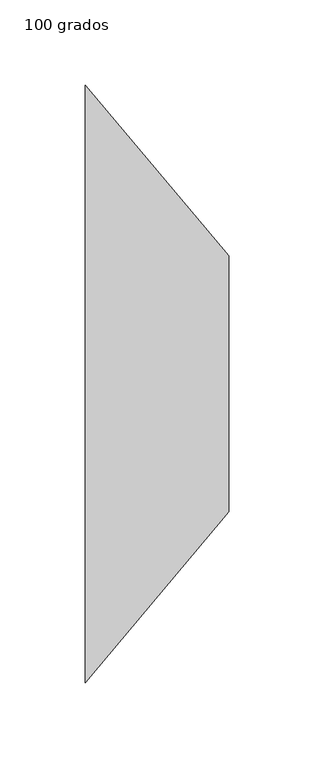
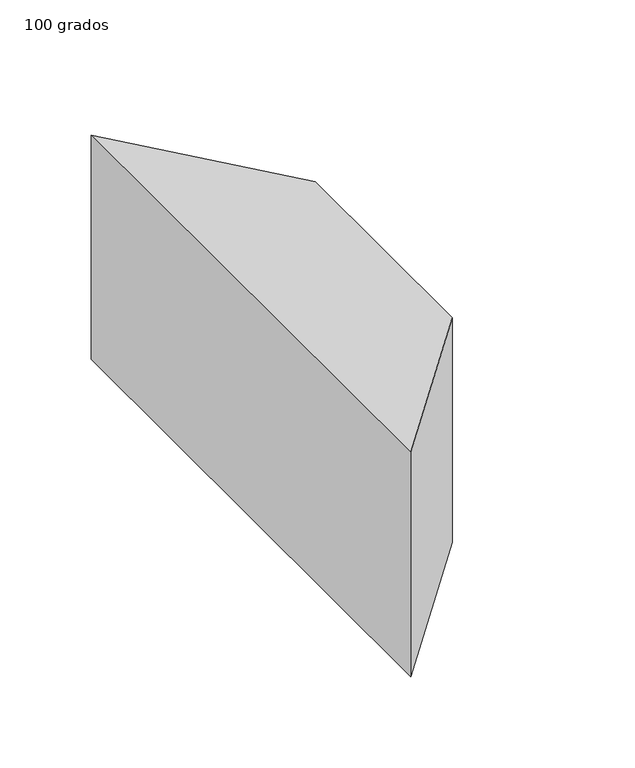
"""IFC4 building model written with IfcOpenShell, lengths in millimetres: duct fitting geometry, M_Transición rectangular - Ángulo : 100 grados."""

import ifcopenshell
import ifcopenshell.guid

model = None  # the IFC model being written
_history = None  # IfcOwnerHistory: only IFC2X3 demands one
_inside = {}  # id of a spatial element -> (the spatial element, [elements in it])
_under = {}  # id of a project, library or spatial element -> (it, [spatial elements below it])
_declared = {}  # id of a project -> (the project, [libraries it declares])
_typed = {}  # id of a type object -> (the type object, [elements of that type])
_made_of = {}  # id of a material, layer set ... -> (it, [elements and type objects made of it])


def new_model(schema):
    """Start an empty IFC model of exactly this schema.

    Asked for "IFC4X3", IfcOpenShell would pick the latest addendum, in which some entities
    have other attributes; the version numbers below select the first issue.
    IFC2X3 requires an IfcOwnerHistory on every rooted entity: one is made here for all.
    """
    global model, _history
    if schema == "IFC4X3":
        model = ifcopenshell.file(schema_version=(4, 3, 0, 0))
    else:
        model = ifcopenshell.file(schema=schema)
    _inside.clear()
    _under.clear()
    _declared.clear()
    _typed.clear()
    _made_of.clear()
    _history = None
    if model.schema == "IFC2X3":
        org = make("IfcOrganization", Name="unknown")
        user = make(
            "IfcPersonAndOrganization",
            ThePerson=make("IfcPerson", FamilyName="unknown"),
            TheOrganization=org,
        )
        app = make(
            "IfcApplication",
            ApplicationDeveloper=org,
            Version="unknown",
            ApplicationFullName="unknown",
            ApplicationIdentifier="unknown",
        )
        _history = make(
            "IfcOwnerHistory",
            OwningUser=user,
            OwningApplication=app,
            ChangeAction="ADDED",
            CreationDate=0,
        )
    return model


def make(cls, **values):
    """One entity of the class cls with the attributes given. An attribute that is None is left unset."""
    return model.create_entity(
        cls, **{name: value for name, value in values.items() if value is not None}
    )


def rooted(cls, **values):
    """An entity with a GlobalId (a new one), such as an element, a storey or a relation."""
    return make(cls, GlobalId=ifcopenshell.guid.new(), OwnerHistory=_history, **values)


def si_unit(unit_type, name, prefix=None):
    """IfcSIUnit, for example si_unit("LENGTHUNIT", "METRE", prefix="MILLI")."""
    return make("IfcSIUnit", UnitType=unit_type, Prefix=prefix, Name=name)


def assignment(units):
    """IfcUnitAssignment: the units of a project."""
    return None if units is None else make("IfcUnitAssignment", Units=units)


def point(xyz):
    """IfcCartesianPoint."""
    return None if xyz is None else make("IfcCartesianPoint", Coordinates=xyz)


def direction(xyz):
    """IfcDirection."""
    return None if xyz is None else make("IfcDirection", DirectionRatios=xyz)


def frame(location, z_axis=None, x_axis=None):
    """IfcAxis2Placement3D, a coordinate frame: its origin and axes. An axis left out is left unset."""
    return make(
        "IfcAxis2Placement3D",
        Location=point(location),
        Axis=direction(z_axis),
        RefDirection=direction(x_axis),
    )


def origin():
    """The frame at (0, 0, 0) with its axes left unset."""
    return frame((0.0, 0.0, 0.0))


def place(relative_to, where):
    """IfcLocalPlacement: puts the frame where relative to a parent placement (None: the world)."""
    return make(
        "IfcLocalPlacement", PlacementRelTo=relative_to, RelativePlacement=where
    )


def context(
    kind, dimensions, precision=None, world=None, true_north=None, identifier=None
):
    """IfcGeometricRepresentationContext, for example the 3D "Model" context."""
    return make(
        "IfcGeometricRepresentationContext",
        ContextIdentifier=identifier,
        ContextType=kind,
        CoordinateSpaceDimension=dimensions,
        Precision=precision,
        WorldCoordinateSystem=world,
        TrueNorth=true_north,
    )


def project(units=None, contexts=None):
    """IfcProject with its units and contexts."""
    return rooted(
        "IfcProject",
        Name="project",
        RepresentationContexts=contexts,
        UnitsInContext=assignment(units),
    )


def spatial(cls, under=None, at=None, **own):
    """A site, building, storey or space (cls), placed at a placement, below another one or the project."""
    s = rooted(cls, ObjectPlacement=at, **own)
    if under is not None:
        _under.setdefault(under.id(), (under, []))[1].append(s)
    return s


def polyline(points):
    """IfcPolyline through the points."""
    return make("IfcPolyline", Points=[point(p) for p in points])


def outline(outer, holes=None, kind="AREA"):
    """IfcArbitraryClosedProfileDef: a profile drawn as a closed curve; with holes, ...WithVoids."""
    if holes is None:
        return make("IfcArbitraryClosedProfileDef", ProfileType=kind, OuterCurve=outer)
    return make(
        "IfcArbitraryProfileDefWithVoids",
        ProfileType=kind,
        OuterCurve=outer,
        InnerCurves=holes,
    )


def extrude(swept, where, along, depth):
    """IfcExtrudedAreaSolid: the profile swept, set in the frame where, extruded along a direction by depth."""
    return make(
        "IfcExtrudedAreaSolid",
        SweptArea=swept,
        Position=where,
        ExtrudedDirection=direction(along),
        Depth=depth,
    )


def shape(context_of_items, identifier, shape_type, items):
    """IfcShapeRepresentation: the items that make up one representation, for example the "Body"."""
    return make(
        "IfcShapeRepresentation",
        ContextOfItems=context_of_items,
        RepresentationIdentifier=identifier,
        RepresentationType=shape_type,
        Items=items,
    )


def source(mapping_origin, context_of_items, identifier, shape_type, items):
    """IfcRepresentationMap: a shape defined once, which mapped items show again and again."""
    return make(
        "IfcRepresentationMap",
        MappingOrigin=mapping_origin,
        MappedRepresentation=shape(context_of_items, identifier, shape_type, items),
    )


def transform(
    local_origin,
    x_axis=None,
    y_axis=None,
    z_axis=None,
    scale=None,
    scale2=None,
    scale3=None,
    uniform=True,
):
    """IfcCartesianTransformationOperator3D, or its non-uniform kind. x_axis, y_axis, z_axis: its Axis1, 2, 3."""
    if uniform:
        return make(
            "IfcCartesianTransformationOperator3D",
            Axis1=direction(x_axis),
            Axis2=direction(y_axis),
            LocalOrigin=point(local_origin),
            Scale=scale,
            Axis3=direction(z_axis),
        )
    return make(
        "IfcCartesianTransformationOperator3DnonUniform",
        Axis1=direction(x_axis),
        Axis2=direction(y_axis),
        LocalOrigin=point(local_origin),
        Scale=scale,
        Axis3=direction(z_axis),
        Scale2=scale2,
        Scale3=scale3,
    )


def mapped(mapping_source, mapping_target):
    """IfcMappedItem: shows the shape of a source again, moved by a transform."""
    return make(
        "IfcMappedItem", MappingSource=mapping_source, MappingTarget=mapping_target
    )


def made_of(thing, what):
    """Note that an element or type object is made of a material, layer set ...; save() writes the relation."""
    if what is not None:
        _made_of.setdefault(what.id(), (what, []))[1].append(thing)
    return thing


def element(
    cls,
    number,
    at=None,
    inside=None,
    cuts=None,
    type_object=None,
    material=None,
    context=None,
    identifier="Body",
    shape_type=None,
    held_by="IfcProductDefinitionShape",
    body=None,
    shapes=None,
    **own,
):
    """One element of the class cls, such as IfcWall. Its Tag is "e" and its number.

    at: its placement. inside: the storey or other place that contains it. cuts: it is an
    opening in that element (IfcRelVoidsElement). A single representation is given by context,
    identifier, shape_type and body (its items); several are given by shapes. held_by: the class
    of the entity that holds the representations. save() writes the other relations.
    """
    e = rooted(cls, Tag="e%d" % number, ObjectPlacement=at, **own)
    if body is not None:
        shapes = [shape(context, identifier, shape_type, body)]
    if shapes is not None:
        e.Representation = make(held_by, Representations=shapes)
    if inside is not None:
        _inside.setdefault(inside.id(), (inside, []))[1].append(e)
    if cuts is not None:
        rooted(
            "IfcRelVoidsElement", RelatingBuildingElement=cuts, RelatedOpeningElement=e
        )
    if type_object is not None:
        _typed.setdefault(type_object.id(), (type_object, []))[1].append(e)
    return made_of(e, material)


def aggregate(whole, parts):
    """IfcRelAggregates: a whole, such as a stair, and the parts it consists of."""
    return rooted("IfcRelAggregates", RelatingObject=whole, RelatedObjects=parts)


def save(model, path):
    """Write the relations noted so far, then the file.

    IfcRelAggregates (storeys below a building ...), IfcRelContainedInSpatialStructure (elements
    in a storey), IfcRelDefinesByType, IfcRelAssociatesMaterial and IfcRelDeclares: one each for
    every whole, place, type object, material and project.
    """
    for whole, parts in _under.values():
        aggregate(whole, parts)
    for where, things in _inside.values():
        rooted(
            "IfcRelContainedInSpatialStructure",
            RelatedElements=things,
            RelatingStructure=where,
        )
    for kind, things in _typed.values():
        rooted("IfcRelDefinesByType", RelatedObjects=things, RelatingType=kind)
    for what, things in _made_of.values():
        rooted("IfcRelAssociatesMaterial", RelatedObjects=things, RelatingMaterial=what)
    for by, libraries in _declared.values():
        rooted("IfcRelDeclares", RelatingContext=by, RelatedDefinitions=libraries)
    model.write(path)


def duct_fitting_100_grados_6ed23bda(model_context):
    return source(origin(), model_context, "Body", "SweptSolid", [
        extrude(outline(polyline([(0.0, -175.0), (0.0, 175.0), (83.9099631, 75.0), (83.9099631, -75.0), (0.0, -175.0)])), frame((0.0, 0.0, -75.0), z_axis=(0.0, 0.0, 1.0), x_axis=(1.0, 0.0, 0.0)), (0.0, 0.0, 1.0), 150.0),
    ])


if __name__ == "__main__":
    model = new_model("IFC4")
    model_context = context("Model", 3, world=origin())
    ifc_project = project(units=[si_unit("LENGTHUNIT", "METRE", prefix="MILLI")], contexts=[model_context])
    site = spatial("IfcSite", under=ifc_project)
    building = spatial("IfcBuilding", under=site)
    placement = place(None, origin())
    duct_fitting_100_grados_shape = duct_fitting_100_grados_6ed23bda(model_context)
    element("IfcDuctFitting", 1, ObjectType="M_Transición rectangular - Ángulo : 100 grados", at=placement, inside=building, context=model_context, shape_type="MappedRepresentation", body=[
        mapped(duct_fitting_100_grados_shape, transform((0.0, 0.0, 0.0), x_axis=(1.0, 0.0, 0.0), y_axis=(0.0, 1.0, 0.0), z_axis=(0.0, 0.0, 1.0))),
    ])
    save(model, "model.ifc")
